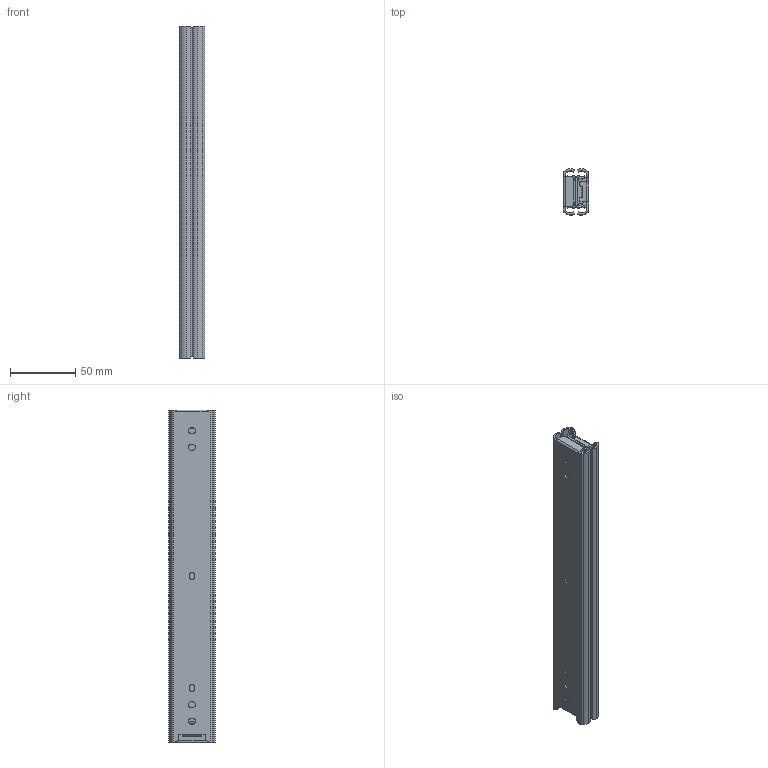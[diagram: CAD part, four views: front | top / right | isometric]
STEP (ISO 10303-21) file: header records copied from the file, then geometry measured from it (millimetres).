
FILE_DESCRIPTION (( 'STEP AP214' ), '1' );
FILE_NAME ('3560-250-closed.STEP', '2024-09-02T07:28:44', ( '' ), ( '' ), 'SwSTEP 2.0', 'SolidWorks 2024', '' );
FILE_SCHEMA (( 'AUTOMOTIVE_DESIGN' ));
Length unit declared in the file: millimetre
Products named in the file (3): 26065P3-10''''_mir_Part7; 26065P1-10''''_mir_Part8; 3560-250-closed
Assembly tree (4 placements, depth 2):
  3560-250-closed
    26065P3-10''''_mir_Part7  x2
    26065P1-10''''_mir_Part8  x2
Bounding box: 19.6 x 35.27 x 254 mm (x, y, z)
Surface area: 82898.4 mm2 (no closed solid volume)
Topology: 0 solids, 4 shells, 290 faces, 834 edges, 552 vertices
Faces by surface type: cylinder 154, plane 136
Entity records: 4933 total; most frequent: DIRECTION 873, CARTESIAN_POINT 863, ORIENTED_EDGE 834, EDGE_CURVE 417, AXIS2_PLACEMENT_3D 306, VERTEX_POINT 276, VECTOR 261, LINE 261
